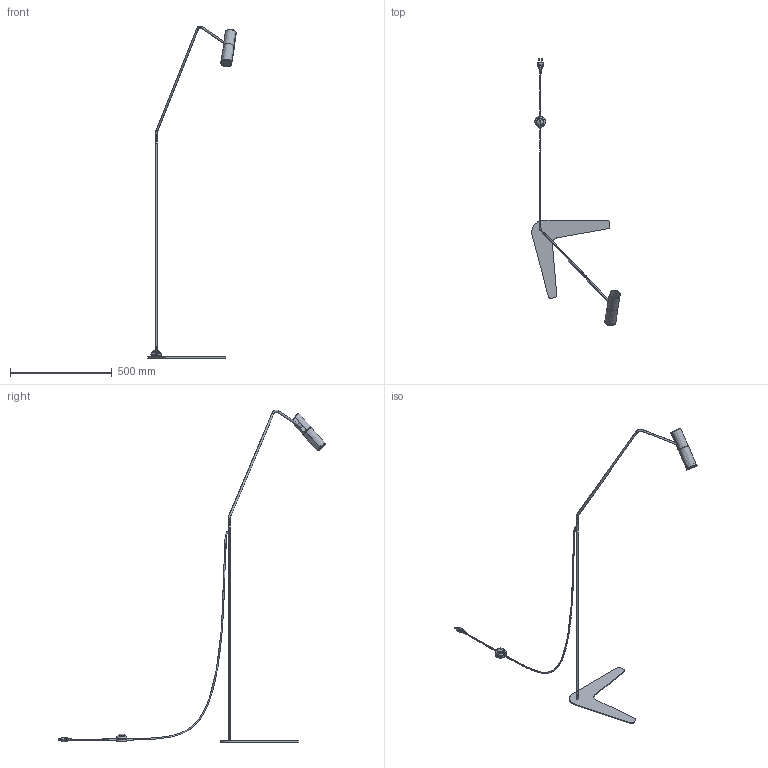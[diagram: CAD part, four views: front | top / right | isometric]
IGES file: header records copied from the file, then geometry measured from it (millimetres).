
Start section: SolidWorks IGES file using analytic representation for surfaces
Global section: file name: Z:\Modele 3D_WWW\_KOLEKCJE_WWW\EYE-SUPER\EYE-SUPER-6493-6500-6506\EYE-SUPER-6493-6500-6506.IGS; native system: SolidWorks 2020; preprocessor: SolidWorks 2020; author: gabriela.tworek; date: 210324.114029; units: millimetre
Bounding box: 434.42 x 1314.17 x 1629.19 mm (x, y, z)
Surface area: 288180.1 mm2 (no closed solid volume)
Topology: 0 solids, 0 shells, 287 faces, 4496 edges, 4492 vertices
Faces by surface type: bspline 208, revolution 79
